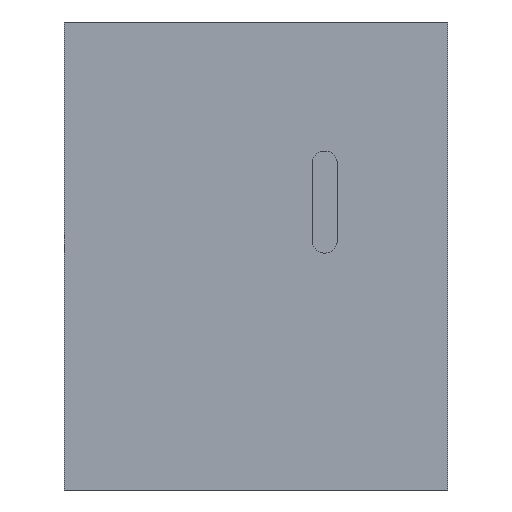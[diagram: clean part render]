
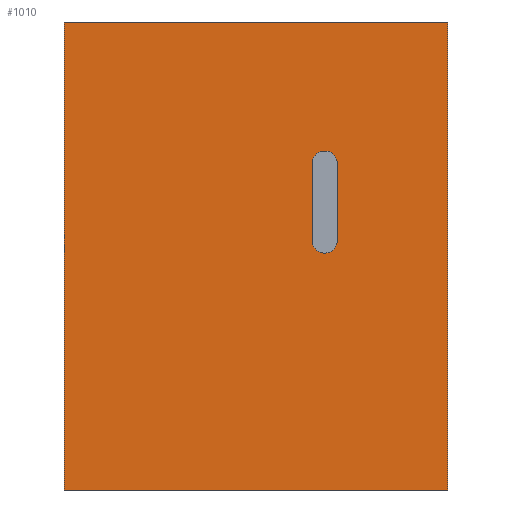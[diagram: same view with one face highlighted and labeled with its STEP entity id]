
A CAD part, front view. The second image highlights one B-rep face of the part: STEP entity #1010.
In plain terms, the highlighted planar face has unit normal (0, -1, 0).
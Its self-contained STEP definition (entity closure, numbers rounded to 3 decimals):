
#22 = VERTEX_POINT('',#23);
#23 = CARTESIAN_POINT('',(30.569,0.,37.261));
#32 = PLANE('',#33);
#33 = AXIS2_PLACEMENT_3D('',#34,#35,#36);
#34 = CARTESIAN_POINT('',(0.,0.,37.261));
#35 = DIRECTION('',(0.,0.,1.));
#36 = DIRECTION('',(1.,0.,-0.));
#44 = PLANE('',#45);
#45 = AXIS2_PLACEMENT_3D('',#46,#47,#48);
#46 = CARTESIAN_POINT('',(30.569,0.,0.));
#47 = DIRECTION('',(1.,0.,-0.));
#48 = DIRECTION('',(0.,0.,1.));
#221 = VERTEX_POINT('',#222);
#222 = CARTESIAN_POINT('',(0.,0.,37.261));
#236 = PLANE('',#237);
#237 = AXIS2_PLACEMENT_3D('',#238,#239,#240);
#238 = CARTESIAN_POINT('',(0.,0.,0.));
#239 = DIRECTION('',(1.,0.,-0.));
#240 = DIRECTION('',(0.,0.,1.));
#248 = EDGE_CURVE('',#221,#22,#249,.T.);
#249 = SURFACE_CURVE('',#250,(#254,#261),.PCURVE_S1.);
#250 = LINE('',#251,#252);
#251 = CARTESIAN_POINT('',(0.,0.,37.261));
#252 = VECTOR('',#253,1.);
#253 = DIRECTION('',(1.,0.,-0.));
#254 = PCURVE('',#32,#255);
#255 = DEFINITIONAL_REPRESENTATION('',(#256),#260);
#256 = LINE('',#257,#258);
#257 = CARTESIAN_POINT('',(0.,0.));
#258 = VECTOR('',#259,1.);
#259 = DIRECTION('',(1.,0.));
#260 = ( GEOMETRIC_REPRESENTATION_CONTEXT(2) 
PARAMETRIC_REPRESENTATION_CONTEXT() REPRESENTATION_CONTEXT('2D SPACE',''
  ) );
#261 = PCURVE('',#262,#267);
#262 = PLANE('',#263);
#263 = AXIS2_PLACEMENT_3D('',#264,#265,#266);
#264 = CARTESIAN_POINT('',(0.,0.,0.));
#265 = DIRECTION('',(-0.,1.,0.));
#266 = DIRECTION('',(0.,0.,1.));
#267 = DEFINITIONAL_REPRESENTATION('',(#268),#272);
#268 = LINE('',#269,#270);
#269 = CARTESIAN_POINT('',(37.261,0.));
#270 = VECTOR('',#271,1.);
#271 = DIRECTION('',(0.,1.));
#272 = ( GEOMETRIC_REPRESENTATION_CONTEXT(2) 
PARAMETRIC_REPRESENTATION_CONTEXT() REPRESENTATION_CONTEXT('2D SPACE',''
  ) );
#593 = EDGE_CURVE('',#594,#22,#596,.T.);
#594 = VERTEX_POINT('',#595);
#595 = CARTESIAN_POINT('',(30.569,0.,0.));
#596 = SURFACE_CURVE('',#597,(#601,#608),.PCURVE_S1.);
#597 = LINE('',#598,#599);
#598 = CARTESIAN_POINT('',(30.569,0.,0.));
#599 = VECTOR('',#600,1.);
#600 = DIRECTION('',(0.,0.,1.));
#601 = PCURVE('',#44,#602);
#602 = DEFINITIONAL_REPRESENTATION('',(#603),#607);
#603 = LINE('',#604,#605);
#604 = CARTESIAN_POINT('',(0.,0.));
#605 = VECTOR('',#606,1.);
#606 = DIRECTION('',(1.,0.));
#607 = ( GEOMETRIC_REPRESENTATION_CONTEXT(2) 
PARAMETRIC_REPRESENTATION_CONTEXT() REPRESENTATION_CONTEXT('2D SPACE',''
  ) );
#608 = PCURVE('',#262,#609);
#609 = DEFINITIONAL_REPRESENTATION('',(#610),#614);
#610 = LINE('',#611,#612);
#611 = CARTESIAN_POINT('',(0.,30.569));
#612 = VECTOR('',#613,1.);
#613 = DIRECTION('',(1.,0.));
#614 = ( GEOMETRIC_REPRESENTATION_CONTEXT(2) 
PARAMETRIC_REPRESENTATION_CONTEXT() REPRESENTATION_CONTEXT('2D SPACE',''
  ) );
#632 = PLANE('',#633);
#633 = AXIS2_PLACEMENT_3D('',#634,#635,#636);
#634 = CARTESIAN_POINT('',(0.,0.,0.));
#635 = DIRECTION('',(0.,0.,1.));
#636 = DIRECTION('',(1.,0.,-0.));
#1010 = ADVANCED_FACE('f003',(#1011,#1059),#262,.F.);
#1011 = FACE_BOUND('',#1012,.F.);
#1012 = EDGE_LOOP('',(#1013,#1036,#1057,#1058));
#1013 = ORIENTED_EDGE('',*,*,#1014,.F.);
#1014 = EDGE_CURVE('',#1015,#594,#1017,.T.);
#1015 = VERTEX_POINT('',#1016);
#1016 = CARTESIAN_POINT('',(0.,0.,0.));
#1017 = SURFACE_CURVE('',#1018,(#1022,#1029),.PCURVE_S1.);
#1018 = LINE('',#1019,#1020);
#1019 = CARTESIAN_POINT('',(0.,0.,0.));
#1020 = VECTOR('',#1021,1.);
#1021 = DIRECTION('',(1.,0.,-0.));
#1022 = PCURVE('',#262,#1023);
#1023 = DEFINITIONAL_REPRESENTATION('',(#1024),#1028);
#1024 = LINE('',#1025,#1026);
#1025 = CARTESIAN_POINT('',(0.,0.));
#1026 = VECTOR('',#1027,1.);
#1027 = DIRECTION('',(0.,1.));
#1028 = ( GEOMETRIC_REPRESENTATION_CONTEXT(2) 
PARAMETRIC_REPRESENTATION_CONTEXT() REPRESENTATION_CONTEXT('2D SPACE',''
  ) );
#1029 = PCURVE('',#632,#1030);
#1030 = DEFINITIONAL_REPRESENTATION('',(#1031),#1035);
#1031 = LINE('',#1032,#1033);
#1032 = CARTESIAN_POINT('',(0.,0.));
#1033 = VECTOR('',#1034,1.);
#1034 = DIRECTION('',(1.,0.));
#1035 = ( GEOMETRIC_REPRESENTATION_CONTEXT(2) 
PARAMETRIC_REPRESENTATION_CONTEXT() REPRESENTATION_CONTEXT('2D SPACE',''
  ) );
#1036 = ORIENTED_EDGE('',*,*,#1037,.T.);
#1037 = EDGE_CURVE('',#1015,#221,#1038,.T.);
#1038 = SURFACE_CURVE('',#1039,(#1043,#1050),.PCURVE_S1.);
#1039 = LINE('',#1040,#1041);
#1040 = CARTESIAN_POINT('',(0.,0.,0.));
#1041 = VECTOR('',#1042,1.);
#1042 = DIRECTION('',(0.,0.,1.));
#1043 = PCURVE('',#262,#1044);
#1044 = DEFINITIONAL_REPRESENTATION('',(#1045),#1049);
#1045 = LINE('',#1046,#1047);
#1046 = CARTESIAN_POINT('',(0.,0.));
#1047 = VECTOR('',#1048,1.);
#1048 = DIRECTION('',(1.,0.));
#1049 = ( GEOMETRIC_REPRESENTATION_CONTEXT(2) 
PARAMETRIC_REPRESENTATION_CONTEXT() REPRESENTATION_CONTEXT('2D SPACE',''
  ) );
#1050 = PCURVE('',#236,#1051);
#1051 = DEFINITIONAL_REPRESENTATION('',(#1052),#1056);
#1052 = LINE('',#1053,#1054);
#1053 = CARTESIAN_POINT('',(0.,0.));
#1054 = VECTOR('',#1055,1.);
#1055 = DIRECTION('',(1.,0.));
#1056 = ( GEOMETRIC_REPRESENTATION_CONTEXT(2) 
PARAMETRIC_REPRESENTATION_CONTEXT() REPRESENTATION_CONTEXT('2D SPACE',''
  ) );
#1057 = ORIENTED_EDGE('',*,*,#248,.T.);
#1058 = ORIENTED_EDGE('',*,*,#593,.F.);
#1059 = FACE_BOUND('',#1060,.F.);
#1060 = EDGE_LOOP('',(#1061,#1091,#1124,#1152));
#1061 = ORIENTED_EDGE('',*,*,#1062,.T.);
#1062 = EDGE_CURVE('',#1063,#1065,#1067,.T.);
#1063 = VERTEX_POINT('',#1064);
#1064 = CARTESIAN_POINT('',(21.761,0.,19.856));
#1065 = VERTEX_POINT('',#1066);
#1066 = CARTESIAN_POINT('',(21.761,0.,25.99));
#1067 = SURFACE_CURVE('',#1068,(#1072,#1079),.PCURVE_S1.);
#1068 = LINE('',#1069,#1070);
#1069 = CARTESIAN_POINT('',(21.761,0.,19.856));
#1070 = VECTOR('',#1071,1.);
#1071 = DIRECTION('',(0.,0.,1.));
#1072 = PCURVE('',#262,#1073);
#1073 = DEFINITIONAL_REPRESENTATION('',(#1074),#1078);
#1074 = LINE('',#1075,#1076);
#1075 = CARTESIAN_POINT('',(19.856,21.761));
#1076 = VECTOR('',#1077,1.);
#1077 = DIRECTION('',(1.,0.));
#1078 = ( GEOMETRIC_REPRESENTATION_CONTEXT(2) 
PARAMETRIC_REPRESENTATION_CONTEXT() REPRESENTATION_CONTEXT('2D SPACE',''
  ) );
#1079 = PCURVE('',#1080,#1085);
#1080 = PLANE('',#1081);
#1081 = AXIS2_PLACEMENT_3D('',#1082,#1083,#1084);
#1082 = CARTESIAN_POINT('',(21.761,0.,19.856));
#1083 = DIRECTION('',(1.,0.,-0.));
#1084 = DIRECTION('',(0.,0.,1.));
#1085 = DEFINITIONAL_REPRESENTATION('',(#1086),#1090);
#1086 = LINE('',#1087,#1088);
#1087 = CARTESIAN_POINT('',(0.,0.));
#1088 = VECTOR('',#1089,1.);
#1089 = DIRECTION('',(1.,0.));
#1090 = ( GEOMETRIC_REPRESENTATION_CONTEXT(2) 
PARAMETRIC_REPRESENTATION_CONTEXT() REPRESENTATION_CONTEXT('2D SPACE',''
  ) );
#1091 = ORIENTED_EDGE('',*,*,#1092,.T.);
#1092 = EDGE_CURVE('',#1065,#1093,#1095,.T.);
#1093 = VERTEX_POINT('',#1094);
#1094 = CARTESIAN_POINT('',(19.761,0.,25.99));
#1095 = SURFACE_CURVE('',#1096,(#1101,#1112),.PCURVE_S1.);
#1096 = CIRCLE('',#1097,1.);
#1097 = AXIS2_PLACEMENT_3D('',#1098,#1099,#1100);
#1098 = CARTESIAN_POINT('',(20.761,0.,25.99));
#1099 = DIRECTION('',(0.,-1.,0.));
#1100 = DIRECTION('',(0.,-0.,-1.));
#1101 = PCURVE('',#262,#1102);
#1102 = DEFINITIONAL_REPRESENTATION('',(#1103),#1111);
#1103 = ( BOUNDED_CURVE() B_SPLINE_CURVE(2,(#1104,#1105,#1106,#1107,
#1108,#1109,#1110),.UNSPECIFIED.,.T.,.F.) B_SPLINE_CURVE_WITH_KNOTS((1,2
    ,2,2,2,1),(-2.094,0.,2.094,4.189,
6.283,8.378),.UNSPECIFIED.) CURVE() 
GEOMETRIC_REPRESENTATION_ITEM() RATIONAL_B_SPLINE_CURVE((1.,0.5,1.,0.5,
1.,0.5,1.)) REPRESENTATION_ITEM('') );
#1104 = CARTESIAN_POINT('',(24.99,20.761));
#1105 = CARTESIAN_POINT('',(24.99,22.493));
#1106 = CARTESIAN_POINT('',(26.49,21.627));
#1107 = CARTESIAN_POINT('',(27.99,20.761));
#1108 = CARTESIAN_POINT('',(26.49,19.895));
#1109 = CARTESIAN_POINT('',(24.99,19.029));
#1110 = CARTESIAN_POINT('',(24.99,20.761));
#1111 = ( GEOMETRIC_REPRESENTATION_CONTEXT(2) 
PARAMETRIC_REPRESENTATION_CONTEXT() REPRESENTATION_CONTEXT('2D SPACE',''
  ) );
#1112 = PCURVE('',#1113,#1118);
#1113 = CYLINDRICAL_SURFACE('',#1114,1.);
#1114 = AXIS2_PLACEMENT_3D('',#1115,#1116,#1117);
#1115 = CARTESIAN_POINT('',(20.761,0.,25.99));
#1116 = DIRECTION('',(0.,-1.,0.));
#1117 = DIRECTION('',(0.,-0.,-1.));
#1118 = DEFINITIONAL_REPRESENTATION('',(#1119),#1123);
#1119 = LINE('',#1120,#1121);
#1120 = CARTESIAN_POINT('',(0.,0.));
#1121 = VECTOR('',#1122,1.);
#1122 = DIRECTION('',(1.,0.));
#1123 = ( GEOMETRIC_REPRESENTATION_CONTEXT(2) 
PARAMETRIC_REPRESENTATION_CONTEXT() REPRESENTATION_CONTEXT('2D SPACE',''
  ) );
#1124 = ORIENTED_EDGE('',*,*,#1125,.T.);
#1125 = EDGE_CURVE('',#1093,#1126,#1128,.T.);
#1126 = VERTEX_POINT('',#1127);
#1127 = CARTESIAN_POINT('',(19.761,0.,19.856));
#1128 = SURFACE_CURVE('',#1129,(#1133,#1140),.PCURVE_S1.);
#1129 = LINE('',#1130,#1131);
#1130 = CARTESIAN_POINT('',(19.761,0.,25.99));
#1131 = VECTOR('',#1132,1.);
#1132 = DIRECTION('',(0.,0.,-1.));
#1133 = PCURVE('',#262,#1134);
#1134 = DEFINITIONAL_REPRESENTATION('',(#1135),#1139);
#1135 = LINE('',#1136,#1137);
#1136 = CARTESIAN_POINT('',(25.99,19.761));
#1137 = VECTOR('',#1138,1.);
#1138 = DIRECTION('',(-1.,0.));
#1139 = ( GEOMETRIC_REPRESENTATION_CONTEXT(2) 
PARAMETRIC_REPRESENTATION_CONTEXT() REPRESENTATION_CONTEXT('2D SPACE',''
  ) );
#1140 = PCURVE('',#1141,#1146);
#1141 = PLANE('',#1142);
#1142 = AXIS2_PLACEMENT_3D('',#1143,#1144,#1145);
#1143 = CARTESIAN_POINT('',(19.761,0.,25.99));
#1144 = DIRECTION('',(-1.,0.,-0.));
#1145 = DIRECTION('',(0.,0.,-1.));
#1146 = DEFINITIONAL_REPRESENTATION('',(#1147),#1151);
#1147 = LINE('',#1148,#1149);
#1148 = CARTESIAN_POINT('',(0.,0.));
#1149 = VECTOR('',#1150,1.);
#1150 = DIRECTION('',(1.,0.));
#1151 = ( GEOMETRIC_REPRESENTATION_CONTEXT(2) 
PARAMETRIC_REPRESENTATION_CONTEXT() REPRESENTATION_CONTEXT('2D SPACE',''
  ) );
#1152 = ORIENTED_EDGE('',*,*,#1153,.T.);
#1153 = EDGE_CURVE('',#1126,#1063,#1154,.T.);
#1154 = SURFACE_CURVE('',#1155,(#1160,#1171),.PCURVE_S1.);
#1155 = CIRCLE('',#1156,1.);
#1156 = AXIS2_PLACEMENT_3D('',#1157,#1158,#1159);
#1157 = CARTESIAN_POINT('',(20.761,0.,19.856));
#1158 = DIRECTION('',(0.,-1.,0.));
#1159 = DIRECTION('',(0.,-0.,-1.));
#1160 = PCURVE('',#262,#1161);
#1161 = DEFINITIONAL_REPRESENTATION('',(#1162),#1170);
#1162 = ( BOUNDED_CURVE() B_SPLINE_CURVE(2,(#1163,#1164,#1165,#1166,
#1167,#1168,#1169),.UNSPECIFIED.,.T.,.F.) B_SPLINE_CURVE_WITH_KNOTS((1,2
    ,2,2,2,1),(-2.094,0.,2.094,4.189,
6.283,8.378),.UNSPECIFIED.) CURVE() 
GEOMETRIC_REPRESENTATION_ITEM() RATIONAL_B_SPLINE_CURVE((1.,0.5,1.,0.5,
1.,0.5,1.)) REPRESENTATION_ITEM('') );
#1163 = CARTESIAN_POINT('',(18.856,20.761));
#1164 = CARTESIAN_POINT('',(18.856,22.493));
#1165 = CARTESIAN_POINT('',(20.356,21.627));
#1166 = CARTESIAN_POINT('',(21.856,20.761));
#1167 = CARTESIAN_POINT('',(20.356,19.895));
#1168 = CARTESIAN_POINT('',(18.856,19.029));
#1169 = CARTESIAN_POINT('',(18.856,20.761));
#1170 = ( GEOMETRIC_REPRESENTATION_CONTEXT(2) 
PARAMETRIC_REPRESENTATION_CONTEXT() REPRESENTATION_CONTEXT('2D SPACE',''
  ) );
#1171 = PCURVE('',#1172,#1177);
#1172 = CYLINDRICAL_SURFACE('',#1173,1.);
#1173 = AXIS2_PLACEMENT_3D('',#1174,#1175,#1176);
#1174 = CARTESIAN_POINT('',(20.761,0.,19.856));
#1175 = DIRECTION('',(0.,-1.,0.));
#1176 = DIRECTION('',(0.,-0.,-1.));
#1177 = DEFINITIONAL_REPRESENTATION('',(#1178),#1182);
#1178 = LINE('',#1179,#1180);
#1179 = CARTESIAN_POINT('',(0.,0.));
#1180 = VECTOR('',#1181,1.);
#1181 = DIRECTION('',(1.,0.));
#1182 = ( GEOMETRIC_REPRESENTATION_CONTEXT(2) 
PARAMETRIC_REPRESENTATION_CONTEXT() REPRESENTATION_CONTEXT('2D SPACE',''
  ) );
